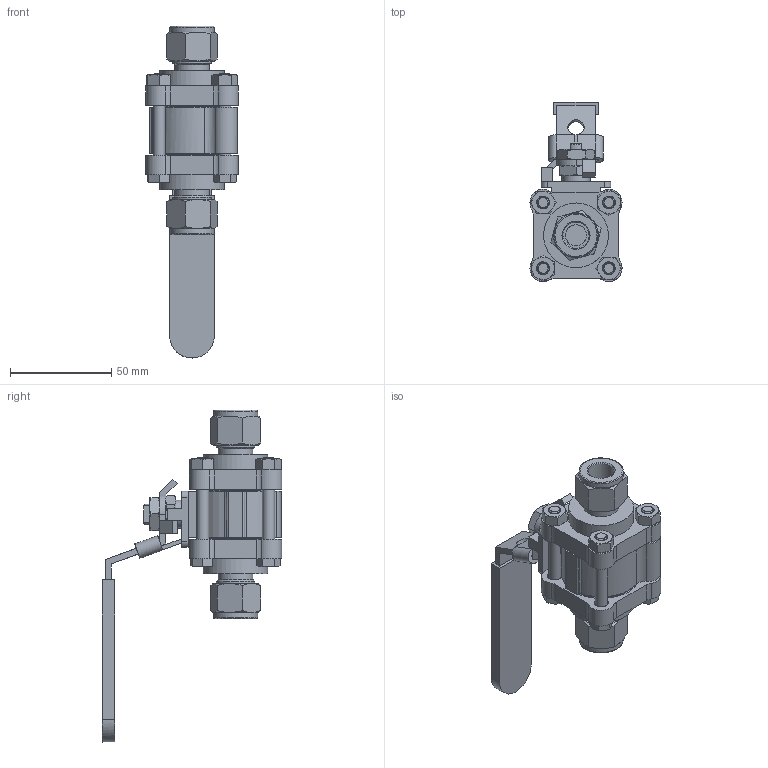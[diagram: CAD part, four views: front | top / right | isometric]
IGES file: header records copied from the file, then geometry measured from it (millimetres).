
Global section: file name: SWB3202-S8; native system: Autodesk Inventor 2016; preprocessor: unknown; author: DESIGNPC2; date: 20160502.104243; units: millimetre
Bounding box: 45.52 x 88.57 x 164 mm (x, y, z)
Volume: 117455.7 mm3; surface area: 47355.2 mm2
Topology: 16 solids, 16 shells, 790 faces, 2026 edges, 1338 vertices
Faces by surface type: bspline 790
